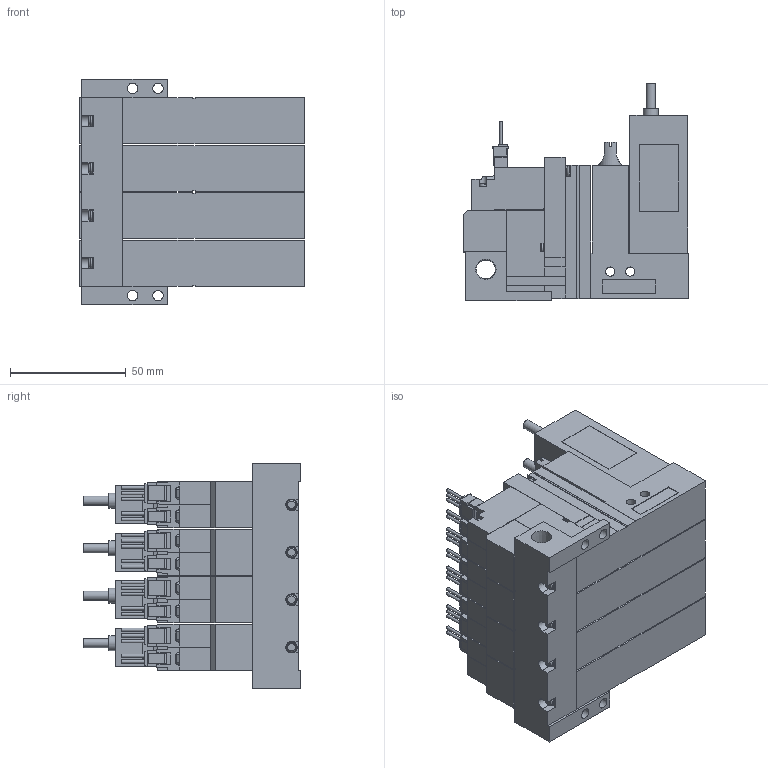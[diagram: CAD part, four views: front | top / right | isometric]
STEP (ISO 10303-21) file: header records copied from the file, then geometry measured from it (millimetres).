
FILE_DESCRIPTION(('STEP AP203'),'1');
FILE_NAME('VG_VGPLC5WLR404.stp','2025-02-18T23:41:02',(' '),(' '),'Spatial InterOp 3D',' ',' ');
FILE_SCHEMA(('CONFIG_CONTROL_DESIGN'));
Length unit declared in the file: millimetre
Products named in the file (5): BMC22M※※※※VG_VGPLC5WLR404; Solenoid valve W; Pressure sensor VGLC; Unit LC; Base MR40R
Assembly tree (13 placements, depth 2):
  BMC22M※※※※VG_VGPLC5WLR404
    Solenoid valve W  x4
    Pressure sensor VGLC  x4
    Unit LC  x4
    Base MR40R
Bounding box: 97.6 x 94 x 97.5 mm (x, y, z)
Volume: 452938.3 mm3; surface area: 116882.7 mm2
Topology: 13 solids, 13 shells, 1605 faces, 4295 edges, 2832 vertices
Faces by surface type: plane 1358, cylinder 197, cone 30, torus 20
Full cylindrical faces by diameter (mm): 1.4 x20, 2.5 x12, 3 x16, 3.5 x16, 3.6 x4, 4 x24, 4.134 x4, 4.5 x4, 5.2 x4, 6 x4, 6.5 x4, 6.6 x4, 8.279 x1
Entity records: 14335 total; most frequent: CARTESIAN_POINT 2722, DIRECTION 2277, ORIENTED_EDGE 2258, EDGE_CURVE 1129, LINE 925, VECTOR 925, VERTEX_POINT 785, AXIS2_PLACEMENT_3D 676
